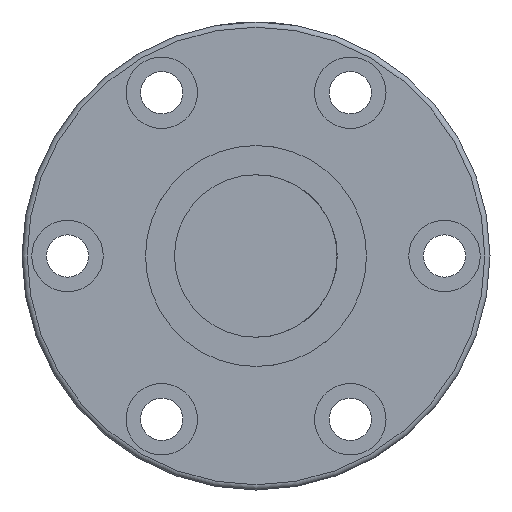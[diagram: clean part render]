
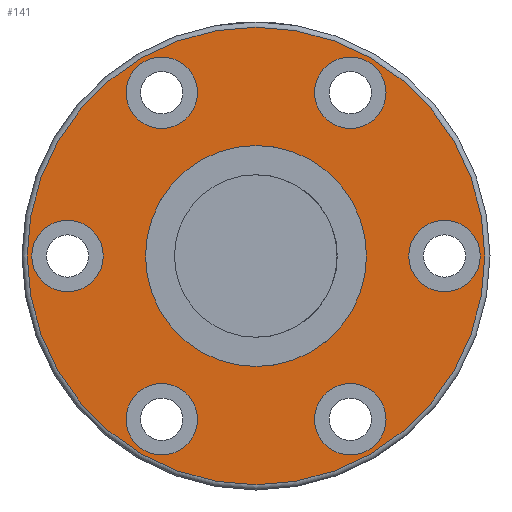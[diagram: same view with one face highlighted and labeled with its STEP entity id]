
A CAD part, front view. The second image highlights one B-rep face of the part: STEP entity #141.
In plain terms, the highlighted planar face has unit normal (0, -1, 0).
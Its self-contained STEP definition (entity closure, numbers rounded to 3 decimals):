
#117=PLANE('',#695);
#141=ADVANCED_FACE('',(#213,#214,#215,#216,#217,#218,#219,#220),#117,.F.);
#213=FACE_BOUND('',#312,.T.);
#214=FACE_BOUND('',#313,.T.);
#215=FACE_BOUND('',#314,.T.);
#216=FACE_BOUND('',#315,.T.);
#217=FACE_BOUND('',#316,.T.);
#218=FACE_BOUND('',#317,.T.);
#219=FACE_BOUND('',#318,.T.);
#220=FACE_BOUND('',#319,.T.);
#312=EDGE_LOOP('',(#412));
#313=EDGE_LOOP('',(#413));
#314=EDGE_LOOP('',(#414));
#315=EDGE_LOOP('',(#415));
#316=EDGE_LOOP('',(#416));
#317=EDGE_LOOP('',(#417));
#318=EDGE_LOOP('',(#418));
#319=EDGE_LOOP('',(#419));
#412=ORIENTED_EDGE('',*,*,#572,.T.);
#413=ORIENTED_EDGE('',*,*,#573,.T.);
#414=ORIENTED_EDGE('',*,*,#574,.T.);
#415=ORIENTED_EDGE('',*,*,#575,.T.);
#416=ORIENTED_EDGE('',*,*,#576,.T.);
#417=ORIENTED_EDGE('',*,*,#577,.T.);
#418=ORIENTED_EDGE('',*,*,#578,.T.);
#419=ORIENTED_EDGE('',*,*,#579,.F.);
#518=VERTEX_POINT('',#987);
#519=VERTEX_POINT('',#989);
#520=VERTEX_POINT('',#991);
#521=VERTEX_POINT('',#993);
#522=VERTEX_POINT('',#995);
#523=VERTEX_POINT('',#997);
#524=VERTEX_POINT('',#999);
#525=VERTEX_POINT('',#1001);
#572=EDGE_CURVE('',#518,#518,#628,.T.);
#573=EDGE_CURVE('',#519,#519,#629,.T.);
#574=EDGE_CURVE('',#520,#520,#630,.T.);
#575=EDGE_CURVE('',#521,#521,#631,.T.);
#576=EDGE_CURVE('',#522,#522,#632,.T.);
#577=EDGE_CURVE('',#523,#523,#633,.T.);
#578=EDGE_CURVE('',#524,#524,#634,.T.);
#579=EDGE_CURVE('',#525,#525,#635,.T.);
#628=CIRCLE('',#687,5.5);
#629=CIRCLE('',#688,5.5);
#630=CIRCLE('',#689,5.5);
#631=CIRCLE('',#690,5.5);
#632=CIRCLE('',#691,5.5);
#633=CIRCLE('',#692,5.5);
#634=CIRCLE('',#693,35.2);
#635=CIRCLE('',#694,17.);
#687=AXIS2_PLACEMENT_3D('',#986,#798,#799);
#688=AXIS2_PLACEMENT_3D('',#988,#800,#801);
#689=AXIS2_PLACEMENT_3D('',#990,#802,#803);
#690=AXIS2_PLACEMENT_3D('',#992,#804,#805);
#691=AXIS2_PLACEMENT_3D('',#994,#806,#807);
#692=AXIS2_PLACEMENT_3D('',#996,#808,#809);
#693=AXIS2_PLACEMENT_3D('',#998,#810,#811);
#694=AXIS2_PLACEMENT_3D('',#1000,#812,#813);
#695=AXIS2_PLACEMENT_3D('',#1002,#814,#815);
#798=DIRECTION('',(0.,1.,0.));
#799=DIRECTION('',(0.,0.,1.));
#800=DIRECTION('',(0.,1.,0.));
#801=DIRECTION('',(0.,0.,1.));
#802=DIRECTION('',(0.,1.,0.));
#803=DIRECTION('',(0.,0.,1.));
#804=DIRECTION('',(0.,1.,0.));
#805=DIRECTION('',(0.,0.,1.));
#806=DIRECTION('',(0.,1.,0.));
#807=DIRECTION('',(0.,0.,1.));
#808=DIRECTION('',(0.,1.,0.));
#809=DIRECTION('',(0.,0.,1.));
#810=DIRECTION('',(0.,-1.,0.));
#811=DIRECTION('',(0.,0.,1.));
#812=DIRECTION('',(0.,-1.,0.));
#813=DIRECTION('',(1.,0.,0.));
#814=DIRECTION('',(0.,1.,0.));
#815=DIRECTION('',(0.,0.,-1.));
#986=CARTESIAN_POINT('',(29.039,-39.961,0.));
#987=CARTESIAN_POINT('',(29.039,-39.961,5.5));
#988=CARTESIAN_POINT('',(-28.961,-39.961,0.));
#989=CARTESIAN_POINT('',(-28.961,-39.961,5.5));
#990=CARTESIAN_POINT('',(14.539,-39.961,-25.115));
#991=CARTESIAN_POINT('',(14.539,-39.961,-19.615));
#992=CARTESIAN_POINT('',(-14.461,-39.961,-25.115));
#993=CARTESIAN_POINT('',(-14.461,-39.961,-19.615));
#994=CARTESIAN_POINT('',(14.539,-39.961,25.115));
#995=CARTESIAN_POINT('',(14.539,-39.961,30.615));
#996=CARTESIAN_POINT('',(-14.461,-39.961,25.115));
#997=CARTESIAN_POINT('',(-14.461,-39.961,30.615));
#998=CARTESIAN_POINT('',(0.039,-39.961,0.));
#999=CARTESIAN_POINT('',(0.039,-39.961,35.2));
#1000=CARTESIAN_POINT('',(0.039,-39.961,0.));
#1001=CARTESIAN_POINT('',(17.039,-39.961,0.));
#1002=CARTESIAN_POINT('',(0.039,-39.961,0.));
